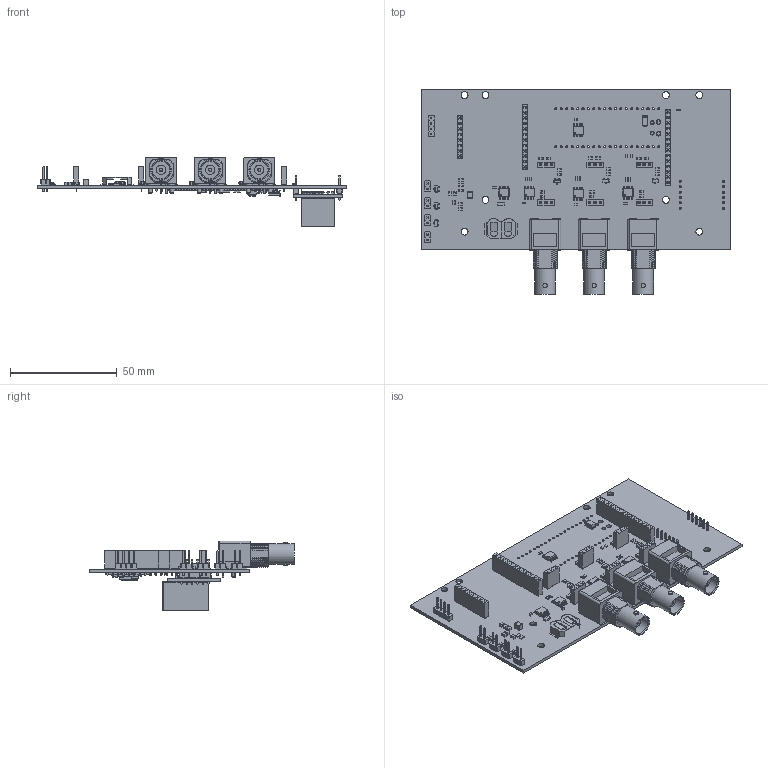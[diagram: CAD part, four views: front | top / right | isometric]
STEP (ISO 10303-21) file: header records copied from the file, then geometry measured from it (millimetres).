
FILE_DESCRIPTION(('KiCad electronic assembly'),'2;1');
FILE_NAME('tank1h.step','2026-08-05T17:35:12',('Pcbnew'),('Kicad'), 'Open CASCADE STEP processor 7.6','KiCad to STEP converter','Unknown' );
FILE_SCHEMA(('AUTOMOTIVE_DESIGN { 1 0 10303 214 1 1 1 1 }'));
Length unit declared in the file: millimetre
Products named in the file (44): tank1h 1; PinHeader_1x02_P2.54mm_Vertical; PinHeader_1x02_P254mm_Vertical; C_0805_2012Metric; SOT-23; R_0805_2012Metric; SOIC-8_3.9x4.9mm_P1.27mm; BNC_Amphenol_B6252HB-NPP3G-50_Horizontal; PinSocket_1x12_P2.54mm_Vertical; L_1210_3225Metric; PinSocket_1x03_P2.54mm_Vertical; PinSocket_1x08_P2.54mm_Vertical; C_0603_1608Metric; D_SMA; R_0603_1608Metric; Crystal_SMD_MicroCrystal_CC7V-T1A-2Pin_3.2x1.5mm; MicroCrystal_CC7V_T1A; BatteryHolder_LINX_BAT-HLD-012-SMT; PinSocket_1x14_P2.54mm_Vertical; PinHeader_1x04_P2.54mm_Vertical; PinHeader_1x04_P254mm_Vertical; w5500-lite; Document; COMPOUND; RaspberryPi_Pico; RaspberryPi_Pico_KiCad; RaspberryPi_Pico_Module_KiCad; tank1_PCB
Assembly tree (98 placements, depth 4):
  tank1h 1
    PinHeader_1x02_P2.54mm_Vertical  x4
      PinHeader_1x02_P254mm_Vertical
    C_0805_2012Metric  x18
      C_0805_2012Metric
    SOT-23  x6
      SOT-23
    R_0805_2012Metric  x8
      R_0805_2012Metric
    SOIC-8_3.9x4.9mm_P1.27mm  x5
      SOIC-8_3.9x4.9mm_P1.27mm
    BNC_Amphenol_B6252HB-NPP3G-50_Horizontal  x3
      BNC_Amphenol_B6252HB-NPP3G-50_Horizontal
    PinSocket_1x12_P2.54mm_Vertical
      PinSocket_1x12_P2.54mm_Vertical
    L_1210_3225Metric
      L_1210_3225Metric
    PinSocket_1x03_P2.54mm_Vertical  x6
      PinSocket_1x03_P2.54mm_Vertical
    PinSocket_1x08_P2.54mm_Vertical
      PinSocket_1x08_P2.54mm_Vertical
    C_0603_1608Metric  x6
      C_0603_1608Metric
    D_SMA
      D_SMA
    R_0603_1608Metric  x8
      R_0603_1608Metric
    Crystal_SMD_MicroCrystal_CC7V-T1A-2Pin_3.2x1.5mm
      MicroCrystal_CC7V_T1A
    BatteryHolder_LINX_BAT-HLD-012-SMT
      BatteryHolder_LINX_BAT-HLD-012-SMT
    PinSocket_1x14_P2.54mm_Vertical
      PinSocket_1x14_P2.54mm_Vertical
    PinHeader_1x04_P2.54mm_Vertical
      PinHeader_1x04_P254mm_Vertical
    w5500-lite
      Document
        COMPOUND
        COMPOUND
        COMPOUND
    RaspberryPi_Pico
      RaspberryPi_Pico_KiCad
        RaspberryPi_Pico_Module_KiCad
    tank1_PCB
Bounding box: 145 x 95.98 x 32.72 mm (x, y, z)
Volume: 34333.7 mm3; surface area: 48031.8 mm2
Topology: 158 solids, 294 shells, 7361 faces, 19439 edges, 12835 vertices
Faces by surface type: plane 5069, bspline 1148, cylinder 1118, cone 18, torus 8
Full cylindrical faces by diameter (mm): 0.67 x12, 0.89 x6, 1 x159, 1.3 x3, 1.6 x3, 1.8 x6, 1.85 x2, 2 x12, 2.01 x6, 2.1 x4, 2.2 x2, 2.5 x6, 3.2 x17, 3.5 x3, 3.8 x3, 4.4 x3, 8.25 x3, 9.65 x3
Entity records: 174282 total; most frequent: CARTESIAN_POINT 52271, ORIENTED_EDGE 22717, DIRECTION 15004, EDGE_CURVE 11679, VERTEX_POINT 7829, LINE 5636, VECTOR 5636, FACE_BOUND 4948
